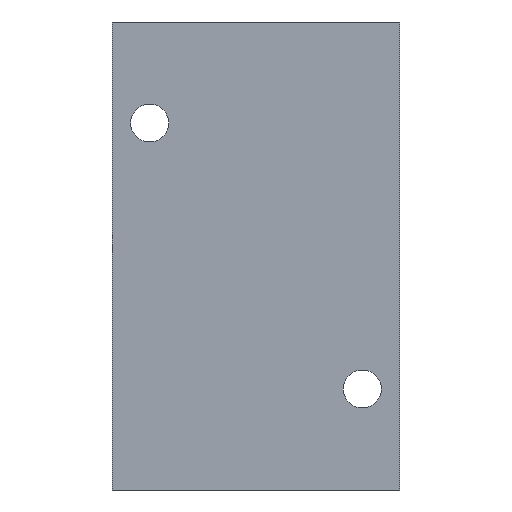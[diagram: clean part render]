
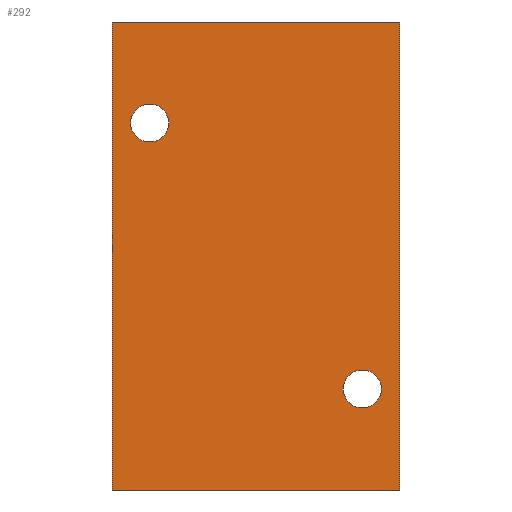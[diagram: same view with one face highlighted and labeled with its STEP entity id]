
A CAD part, front view. The second image highlights one B-rep face of the part: STEP entity #292.
In plain terms, the highlighted planar face has unit normal (0, -1, 0).
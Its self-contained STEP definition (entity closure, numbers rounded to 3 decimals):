
#11 = CARTESIAN_POINT ( 'NONE',  ( -40., -45., 57.125 ) ) ;
#30 = DIRECTION ( 'NONE',  ( 0., 0., -1. ) ) ;
#48 = EDGE_LOOP ( 'NONE', ( #1086, #869 ) ) ;
#87 = VECTOR ( 'NONE', #1252, 1000. ) ;
#168 = FACE_BOUND ( 'NONE', #1360, .T. ) ;
#204 = CARTESIAN_POINT ( 'NONE',  ( 40., -45., -50. ) ) ;
#244 = DIRECTION ( 'NONE',  ( 0., 0., -1. ) ) ;
#259 = CIRCLE ( 'NONE', #1428, 7.125 ) ;
#269 = EDGE_CURVE ( 'NONE', #596, #1237, #1200, .T. ) ;
#271 = DIRECTION ( 'NONE',  ( 0., 0., -1. ) ) ;
#275 = VECTOR ( 'NONE', #30, 1000. ) ;
#276 = CARTESIAN_POINT ( 'NONE',  ( -54., -45., 88. ) ) ;
#282 = EDGE_CURVE ( 'NONE', #596, #1355, #1476, .T. ) ;
#292 = ADVANCED_FACE ( 'NONE', ( #1206, #168, #444 ), #958, .F. ) ;
#293 = CARTESIAN_POINT ( 'NONE',  ( 40., -45., -50. ) ) ;
#303 = CARTESIAN_POINT ( 'NONE',  ( -54., -45., 88. ) ) ;
#327 = DIRECTION ( 'NONE',  ( 0., 0., -1. ) ) ;
#356 = LINE ( 'NONE', #740, #87 ) ;
#362 = EDGE_CURVE ( 'NONE', #1509, #1499, #550, .T. ) ;
#377 = ORIENTED_EDGE ( 'NONE', *, *, #269, .F. ) ;
#420 = AXIS2_PLACEMENT_3D ( 'NONE', #783, #1414, #244 ) ;
#435 = ORIENTED_EDGE ( 'NONE', *, *, #282, .T. ) ;
#444 = FACE_OUTER_BOUND ( 'NONE', #1344, .T. ) ;
#448 = EDGE_CURVE ( 'NONE', #1499, #1509, #820, .T. ) ;
#488 = ORIENTED_EDGE ( 'NONE', *, *, #1038, .F. ) ;
#524 = VECTOR ( 'NONE', #1229, 1000. ) ;
#542 = EDGE_CURVE ( 'NONE', #602, #1243, #579, .T. ) ;
#550 = CIRCLE ( 'NONE', #1358, 7.125 ) ;
#579 = CIRCLE ( 'NONE', #420, 7.125 ) ;
#596 = VERTEX_POINT ( 'NONE', #276 ) ;
#602 = VERTEX_POINT ( 'NONE', #1302 ) ;
#627 = VERTEX_POINT ( 'NONE', #1570 ) ;
#740 = CARTESIAN_POINT ( 'NONE',  ( -54., -45., -88. ) ) ;
#746 = ORIENTED_EDGE ( 'NONE', *, *, #542, .F. ) ;
#783 = CARTESIAN_POINT ( 'NONE',  ( -40., -45., 50. ) ) ;
#792 = CARTESIAN_POINT ( 'NONE',  ( 40., -45., -57.125 ) ) ;
#805 = LINE ( 'NONE', #1307, #1095 ) ;
#818 = DIRECTION ( 'NONE',  ( 0., 1., 0. ) ) ;
#820 = CIRCLE ( 'NONE', #1199, 7.125 ) ;
#831 = CARTESIAN_POINT ( 'NONE',  ( -54., -45., -88. ) ) ;
#869 = ORIENTED_EDGE ( 'NONE', *, *, #362, .F. ) ;
#947 = ORIENTED_EDGE ( 'NONE', *, *, #1559, .T. ) ;
#950 = CARTESIAN_POINT ( 'NONE',  ( 40., -45., -42.875 ) ) ;
#958 = PLANE ( 'NONE',  #1219 ) ;
#976 = DIRECTION ( 'NONE',  ( 0., -1., 0. ) ) ;
#989 = CARTESIAN_POINT ( 'NONE',  ( -40., -45., 50. ) ) ;
#1011 = DIRECTION ( 'NONE',  ( 0., 0., -1. ) ) ;
#1038 = EDGE_CURVE ( 'NONE', #1243, #602, #259, .T. ) ;
#1086 = ORIENTED_EDGE ( 'NONE', *, *, #448, .F. ) ;
#1095 = VECTOR ( 'NONE', #271, 1000. ) ;
#1193 = CARTESIAN_POINT ( 'NONE',  ( 54., -45., 88. ) ) ;
#1199 = AXIS2_PLACEMENT_3D ( 'NONE', #204, #976, #1387 ) ;
#1200 = LINE ( 'NONE', #303, #524 ) ;
#1206 = FACE_BOUND ( 'NONE', #48, .T. ) ;
#1219 = AXIS2_PLACEMENT_3D ( 'NONE', #1468, #818, #1486 ) ;
#1229 = DIRECTION ( 'NONE',  ( 1., 0., 0. ) ) ;
#1237 = VERTEX_POINT ( 'NONE', #1193 ) ;
#1243 = VERTEX_POINT ( 'NONE', #11 ) ;
#1252 = DIRECTION ( 'NONE',  ( 1., 0., 0. ) ) ;
#1302 = CARTESIAN_POINT ( 'NONE',  ( -40., -45., 42.875 ) ) ;
#1307 = CARTESIAN_POINT ( 'NONE',  ( 54., -45., 88. ) ) ;
#1326 = DIRECTION ( 'NONE',  ( 0., -1., 0. ) ) ;
#1344 = EDGE_LOOP ( 'NONE', ( #947, #1682, #377, #435 ) ) ;
#1355 = VERTEX_POINT ( 'NONE', #831 ) ;
#1358 = AXIS2_PLACEMENT_3D ( 'NONE', #293, #1326, #1011 ) ;
#1360 = EDGE_LOOP ( 'NONE', ( #746, #488 ) ) ;
#1387 = DIRECTION ( 'NONE',  ( 0., 0., -1. ) ) ;
#1414 = DIRECTION ( 'NONE',  ( 0., -1., 0. ) ) ;
#1428 = AXIS2_PLACEMENT_3D ( 'NONE', #989, #1491, #327 ) ;
#1468 = CARTESIAN_POINT ( 'NONE',  ( -54., -45., 88. ) ) ;
#1476 = LINE ( 'NONE', #1601, #275 ) ;
#1486 = DIRECTION ( 'NONE',  ( 0., 0., 1. ) ) ;
#1491 = DIRECTION ( 'NONE',  ( 0., -1., 0. ) ) ;
#1499 = VERTEX_POINT ( 'NONE', #792 ) ;
#1509 = VERTEX_POINT ( 'NONE', #950 ) ;
#1559 = EDGE_CURVE ( 'NONE', #1355, #627, #356, .T. ) ;
#1570 = CARTESIAN_POINT ( 'NONE',  ( 54., -45., -88. ) ) ;
#1601 = CARTESIAN_POINT ( 'NONE',  ( -54., -45., 88. ) ) ;
#1672 = EDGE_CURVE ( 'NONE', #1237, #627, #805, .T. ) ;
#1682 = ORIENTED_EDGE ( 'NONE', *, *, #1672, .F. ) ;
